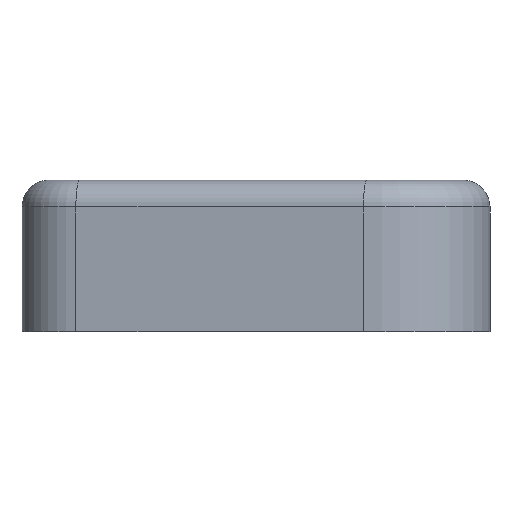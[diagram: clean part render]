
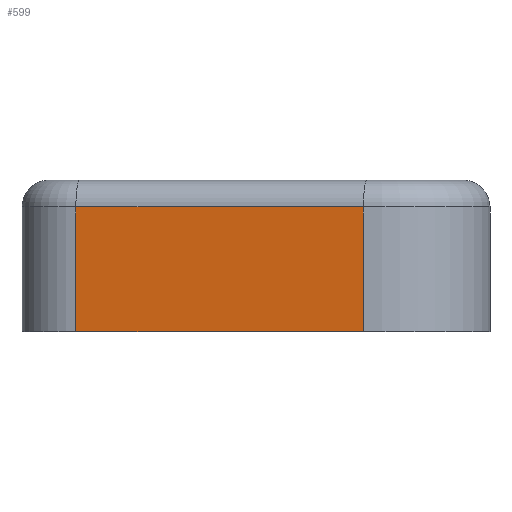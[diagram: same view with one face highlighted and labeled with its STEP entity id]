
A CAD part, left-side view. The second image highlights one B-rep face of the part: STEP entity #599.
In plain terms, the highlighted planar face has unit normal (-0.991, 0.137, 0).
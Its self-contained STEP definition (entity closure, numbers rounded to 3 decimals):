
#133 = VERTEX_POINT('',#134);
#134 = CARTESIAN_POINT('',(-71.869,31.913,16.));
#141 = EDGE_CURVE('',#142,#133,#144,.T.);
#142 = VERTEX_POINT('',#143);
#143 = CARTESIAN_POINT('',(-80.765,-32.584,16.));
#144 = LINE('',#145,#146);
#145 = CARTESIAN_POINT('',(-93.21,-122.799,16.));
#146 = VECTOR('',#147,1.);
#147 = DIRECTION('',(0.137,0.991,-0.));
#325 = EDGE_CURVE('',#133,#326,#328,.T.);
#326 = VERTEX_POINT('',#327);
#327 = CARTESIAN_POINT('',(-71.869,31.913,44.));
#328 = LINE('',#329,#330);
#329 = CARTESIAN_POINT('',(-71.869,31.913,0.));
#330 = VECTOR('',#331,1.);
#331 = DIRECTION('',(0.,0.,1.));
#599 = ADVANCED_FACE('',(#600),#618,.T.);
#600 = FACE_BOUND('',#601,.T.);
#601 = EDGE_LOOP('',(#602,#603,#611,#617));
#602 = ORIENTED_EDGE('',*,*,#141,.F.);
#603 = ORIENTED_EDGE('',*,*,#604,.T.);
#604 = EDGE_CURVE('',#142,#605,#607,.T.);
#605 = VERTEX_POINT('',#606);
#606 = CARTESIAN_POINT('',(-80.765,-32.584,44.));
#607 = LINE('',#608,#609);
#608 = CARTESIAN_POINT('',(-80.765,-32.584,0.));
#609 = VECTOR('',#610,1.);
#610 = DIRECTION('',(0.,0.,1.));
#611 = ORIENTED_EDGE('',*,*,#612,.T.);
#612 = EDGE_CURVE('',#605,#326,#613,.T.);
#613 = LINE('',#614,#615);
#614 = CARTESIAN_POINT('',(-80.765,-32.584,44.));
#615 = VECTOR('',#616,1.);
#616 = DIRECTION('',(0.137,0.991,0.));
#617 = ORIENTED_EDGE('',*,*,#325,.F.);
#618 = PLANE('',#619);
#619 = AXIS2_PLACEMENT_3D('',#620,#621,#622);
#620 = CARTESIAN_POINT('',(-80.765,-32.584,0.));
#621 = DIRECTION('',(-0.991,0.137,0.));
#622 = DIRECTION('',(0.137,0.991,0.));
